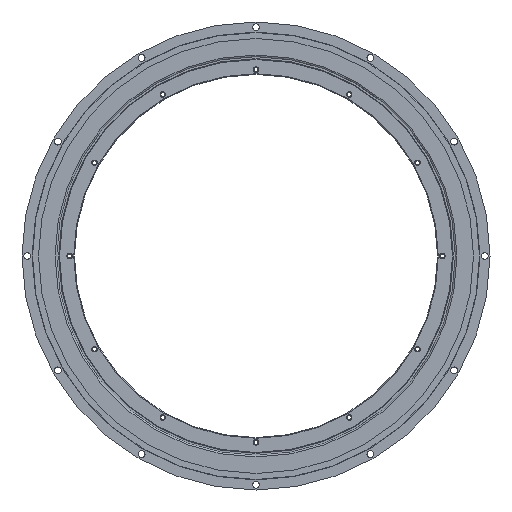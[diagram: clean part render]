
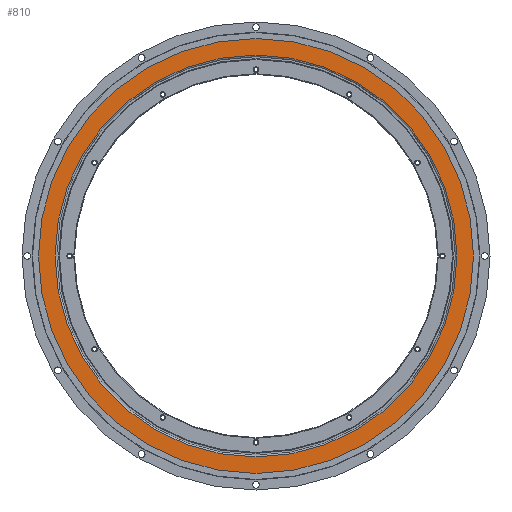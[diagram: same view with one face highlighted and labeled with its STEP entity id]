
A CAD part, front view. The second image highlights one B-rep face of the part: STEP entity #810.
In plain terms, the highlighted planar face has unit normal (0, -1, 0) as drawn and (1, 0, 0) by its records, which use the part's own axes.
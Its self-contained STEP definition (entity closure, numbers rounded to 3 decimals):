
#810=ADVANCED_FACE('',(#1680,#1682),#1684,.T.);
#1680=FACE_BOUND('',#1681,.T.);
#1681=EDGE_LOOP('',(#2021));
#1682=FACE_BOUND('',#1683,.T.);
#1683=EDGE_LOOP('',(#2022));
#1684=PLANE('',#1685);
#1685=AXIS2_PLACEMENT_3D('',#1686,#1687,#1688);
#1686=CARTESIAN_POINT('',(-0.001,0.,0.));
#1687=DIRECTION('',(1.,0.,0.));
#1688=DIRECTION('',(0.,0.,-1.));
#2021=ORIENTED_EDGE('',*,*,#2143,.T.);
#2022=ORIENTED_EDGE('',*,*,#2145,.F.);
#2143=EDGE_CURVE('',#2340,#2340,#2341,.T.);
#2145=EDGE_CURVE('',#2344,#2344,#2345,.F.);
#2340=VERTEX_POINT('',#2824);
#2341=CIRCLE('',#2825,269.5);
#2344=VERTEX_POINT('',#2834);
#2345=CIRCLE('',#2835,249.);
#2824=CARTESIAN_POINT('',(-0.001,0.,-269.5));
#2825=AXIS2_PLACEMENT_3D('',#2826,#2827,#2828);
#2826=CARTESIAN_POINT('',(-0.001,0.,0.));
#2827=DIRECTION('',(1.,0.,0.));
#2828=DIRECTION('',(0.,0.,-1.));
#2834=CARTESIAN_POINT('',(-0.001,0.,249.));
#2835=AXIS2_PLACEMENT_3D('',#2836,#2837,#2838);
#2836=CARTESIAN_POINT('',(-0.001,0.,0.));
#2837=DIRECTION('',(-1.,0.,0.));
#2838=DIRECTION('',(0.,0.,1.));
